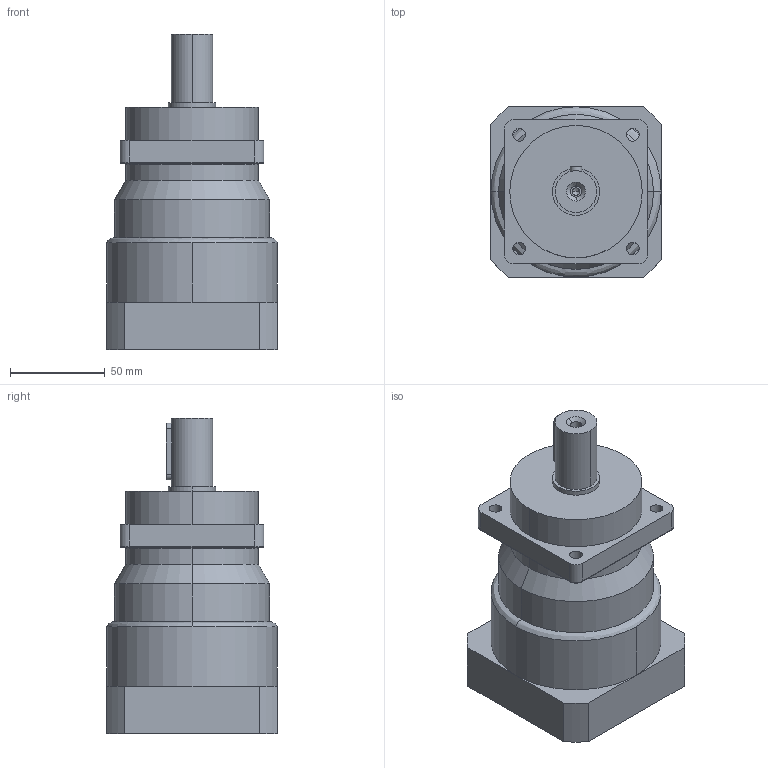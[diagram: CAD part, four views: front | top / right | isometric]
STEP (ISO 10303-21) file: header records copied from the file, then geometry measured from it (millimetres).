
FILE_DESCRIPTION (( 'STEP AP203' ), '1' );
FILE_NAME ('PN90L1-i-P2-S2-19-40-70-90-M5.STEP', '2016-01-05T03:33:50', ( 'User' ), ( 'china' ), 'SwSTEP 2.0', 'SolidWorks 2014', '' );
FILE_SCHEMA (( 'CONFIG_CONTROL_DESIGN' ));
Length unit declared in the file: millimetre
Products named in the file (1): PN90L1-i-P2-S2-19-40-70-90-M5
Bounding box: 90 x 90 x 166.5 mm (x, y, z)
Volume: 710246.6 mm3; surface area: 61728.6 mm2
Topology: 1 solids, 1 shells, 116 faces, 269 edges, 161 vertices
Faces by surface type: cylinder 58, plane 28, bspline 16, cone 14
Entity records: 4308 total; most frequent: CARTESIAN_POINT 1665, DIRECTION 553, ORIENTED_EDGE 518, EDGE_CURVE 259, AXIS2_PLACEMENT_3D 223, VERTEX_POINT 161, EDGE_LOOP 140, CIRCLE 122
